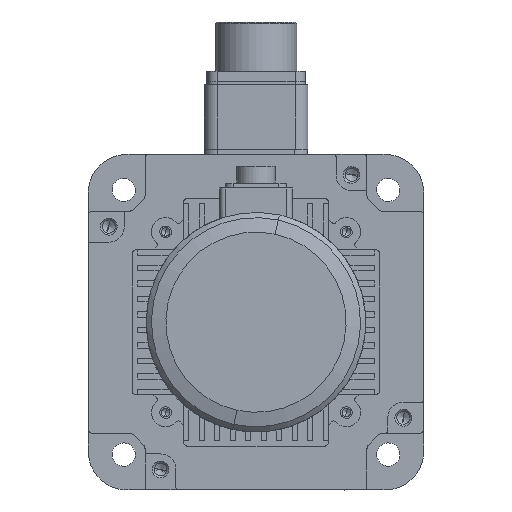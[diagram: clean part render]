
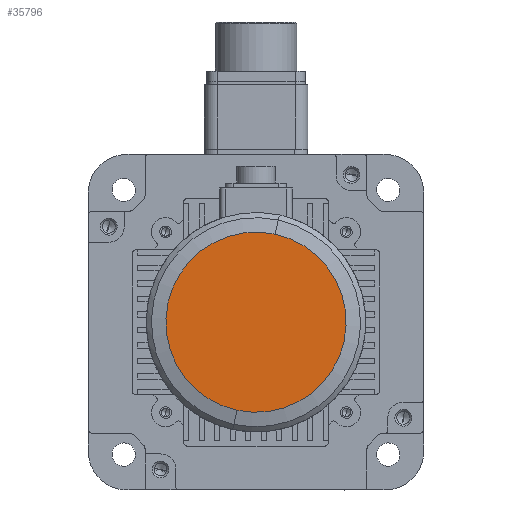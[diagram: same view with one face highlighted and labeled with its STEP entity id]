
A CAD part, left-side view. The second image highlights one B-rep face of the part: STEP entity #35796.
In plain terms, the highlighted planar face has unit normal (-1, 0, 0).
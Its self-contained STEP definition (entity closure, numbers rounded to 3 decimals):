
#58 = DIRECTION ( 'NONE',  ( -1., 0., 0. ) ) ;
#4249 = CARTESIAN_POINT ( 'NONE',  ( -192., 0., 0. ) ) ;
#7111 = AXIS2_PLACEMENT_3D ( 'NONE', #53135, #14896, #24098 ) ;
#9749 = ORIENTED_EDGE ( 'NONE', *, *, #31572, .T. ) ;
#10659 = AXIS2_PLACEMENT_3D ( 'NONE', #26225, #17018, #38480 ) ;
#13218 = VERTEX_POINT ( 'NONE', #28160 ) ;
#14896 = DIRECTION ( 'NONE',  ( 1., 0., 0. ) ) ;
#16235 = EDGE_LOOP ( 'NONE', ( #38943, #9749 ) ) ;
#17018 = DIRECTION ( 'NONE',  ( -1., 0., 0. ) ) ;
#17391 = VERTEX_POINT ( 'NONE', #34103 ) ;
#17663 = AXIS2_PLACEMENT_3D ( 'NONE', #4249, #58, #40121 ) ;
#18793 = FACE_OUTER_BOUND ( 'NONE', #16235, .T. ) ;
#23944 = CIRCLE ( 'NONE', #17663, 34.902 ) ;
#24098 = DIRECTION ( 'NONE',  ( 0., 1., 0. ) ) ;
#26225 = CARTESIAN_POINT ( 'NONE',  ( -192., 0., 0. ) ) ;
#28160 = CARTESIAN_POINT ( 'NONE',  ( -192., -7.393, 34.11 ) ) ;
#31572 = EDGE_CURVE ( 'NONE', #13218, #17391, #35548, .T. ) ;
#32180 = PLANE ( 'NONE',  #7111 ) ;
#34103 = CARTESIAN_POINT ( 'NONE',  ( -192., 7.393, -34.11 ) ) ;
#34679 = EDGE_CURVE ( 'NONE', #17391, #13218, #23944, .T. ) ;
#35548 = CIRCLE ( 'NONE', #10659, 34.902 ) ;
#35796 = ADVANCED_FACE ( 'NONE', ( #18793 ), #32180, .F. ) ;
#38480 = DIRECTION ( 'NONE',  ( 0., 0.212, -0.977 ) ) ;
#38943 = ORIENTED_EDGE ( 'NONE', *, *, #34679, .T. ) ;
#40121 = DIRECTION ( 'NONE',  ( 0., 0.212, -0.977 ) ) ;
#53135 = CARTESIAN_POINT ( 'NONE',  ( -192., -35.321, -35.321 ) ) ;
